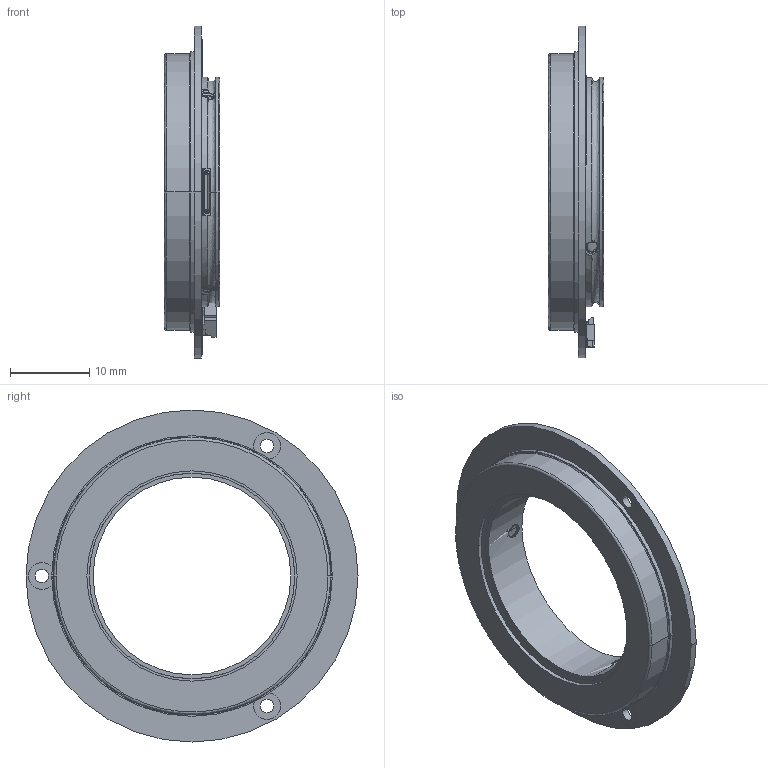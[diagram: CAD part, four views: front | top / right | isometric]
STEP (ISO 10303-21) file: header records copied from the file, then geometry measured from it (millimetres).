
FILE_DESCRIPTION (( 'STEP AP214' ), '1' );
FILE_NAME ('MBS-25-42¸üÐÂ.STEP', '2024-07-16T01:24:14', ( '' ), ( '' ), 'SwSTEP 2.0', 'SolidWorks 2016', '' );
FILE_SCHEMA (( 'AUTOMOTIVE_DESIGN' ));
Length unit declared in the file: millimetre
Products named in the file (1): MBS-25-42載陔
Bounding box: 7 x 42 x 42 mm (x, y, z)
Surface area: 5624.3 mm2 (no closed solid volume)
Topology: 0 solids, 13 shells, 796 faces, 2106 edges, 1381 vertices
Faces by surface type: plane 546, bspline 161, cylinder 77, cone 12
Full cylindrical faces by diameter (mm): 25 x1
Entity records: 69086 total; most frequent: CARTESIAN_POINT 46422, ORIENTED_EDGE 4179, DIRECTION 3114, EDGE_CURVE 2094, VECTOR 1536, LINE 1536, VERTEX_POINT 1378, EDGE_LOOP 876
